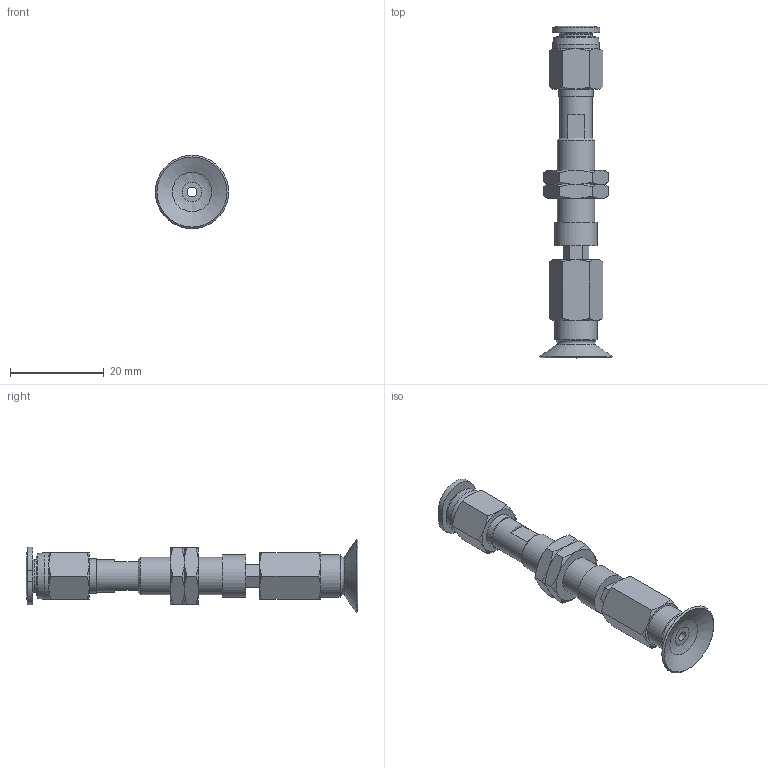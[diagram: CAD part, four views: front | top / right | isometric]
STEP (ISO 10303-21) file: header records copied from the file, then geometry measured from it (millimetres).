
FILE_DESCRIPTION(('STEP AP203'),'1');
FILE_NAME('-O.stp','2025-08-27T03:12:29',(' '),(' '),'Spatial InterOp 3D',' ',' ');
FILE_SCHEMA(('CONFIG_CONTROL_DESIGN'));
Length unit declared in the file: millimetre
Products named in the file (7): BNABPFTH-15A-3-※-O; ADAPTER; NAPATH-10A-3--M; Nut-15A-3-h; NAPFTH-15A-3-FBODY; BPFG-15A-※; PC-C_06-M5
Assembly tree (7 placements, depth 2):
  BNABPFTH-15A-3-※-O
    ADAPTER
    NAPATH-10A-3--M
    Nut-15A-3-h  x2
    NAPFTH-15A-3-FBODY
    BPFG-15A-※
    PC-C_06-M5
Bounding box: 15.7 x 70.98 x 15.7 mm (x, y, z)
Volume: 3497.4 mm3; surface area: 5265 mm2
Topology: 6 solids, 9 shells, 174 faces, 367 edges, 223 vertices
Faces by surface type: plane 70, cone 62, cylinder 23, torus 11, bspline 5, revolution 3
Full cylindrical faces by diameter (mm): 2 x3, 4 x4, 4.134 x1, 5 x1, 6 x2, 7 x2, 7.188 x2, 7.4 x1, 8 x1, 8.2 x1, 9 x2, 10 x1
Entity records: 4515 total; most frequent: CARTESIAN_POINT 1271, DIRECTION 597, ORIENTED_EDGE 522, EDGE_CURVE 263, AXIS2_PLACEMENT_3D 259, EDGE_LOOP 222, VERTEX_POINT 185, FACE_OUTER_BOUND 123
